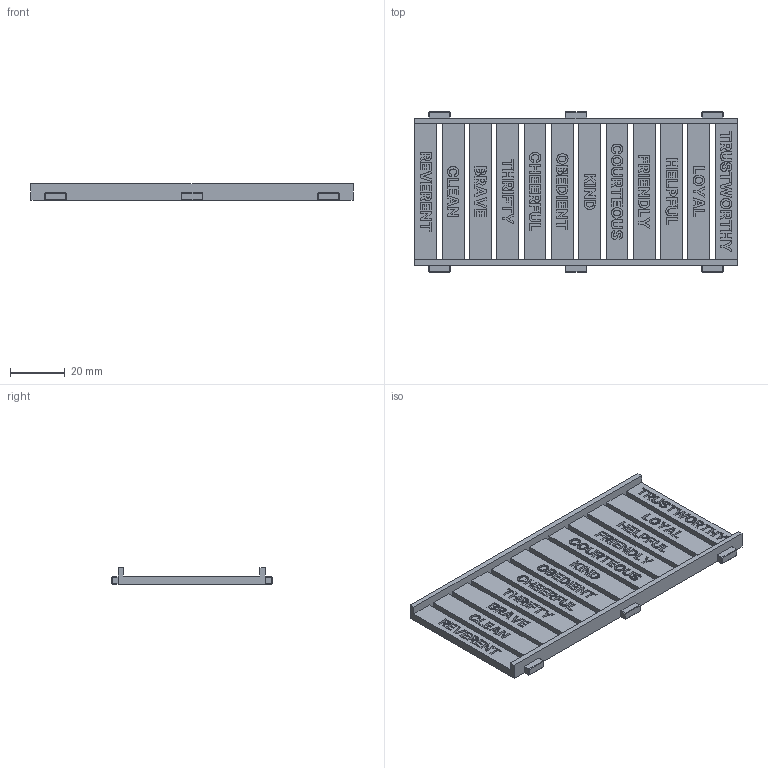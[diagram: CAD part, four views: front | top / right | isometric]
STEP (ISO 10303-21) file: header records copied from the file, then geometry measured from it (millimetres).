
FILE_DESCRIPTION(/* description */ ('STEP AP242','CAx-IF Rec.Pracs.---Representation and Presentation of Product Manufacturing Information (PMI)---4.0---2014-10-13','CAx-IF Rec.Pracs.---3D Tessellated Geometry---0.4---2014-09-14','2;1'),/* implementation_level */ '2;1');
FILE_NAME(/* name */ '65d5ff9ce72da25c79531ebe',/* time_stamp */ '2024-02-21T13:50:22Z',/* author */ (''),/* organization */ (''),/* preprocessor_version */ 'ST-DEVELOPER v19.4',/* originating_system */ ' ',/* authorisation */ ' ');
FILE_SCHEMA (('AP242_MANAGED_MODEL_BASED_3D_ENGINEERING_MIM_LF { 1 0 10303 442 1 1 4 }'));
Length unit declared in the file: metre
Products named in the file (1): Walkway
Bounding box: 118 x 58.8 x 6 mm (x, y, z)
Volume: 16350.7 mm3; surface area: 19903.5 mm2
Topology: 1 solids, 1 shells, 1508 faces, 4152 edges, 2745 vertices
Faces by surface type: plane 972, bspline 536
Entity records: 49034 total; most frequent: CARTESIAN_POINT 14302, ORIENTED_EDGE 8304, DIRECTION 5026, EDGE_CURVE 4152, LINE 3080, VECTOR 3080, VERTEX_POINT 2745, EDGE_LOOP 1629
